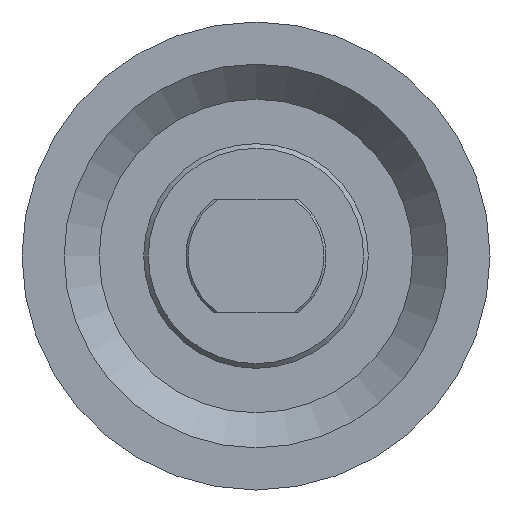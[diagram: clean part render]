
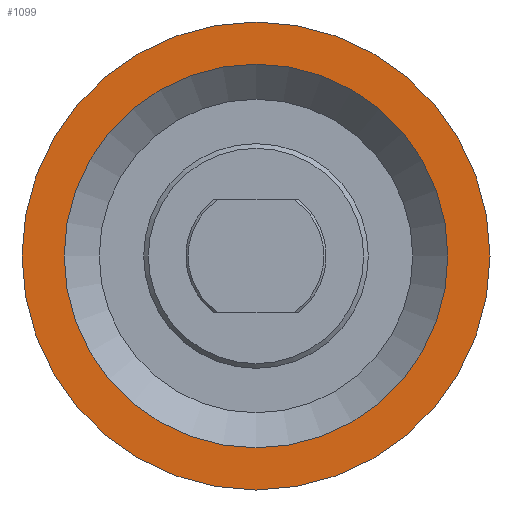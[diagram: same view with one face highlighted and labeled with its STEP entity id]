
A CAD part, left-side view. The second image highlights one B-rep face of the part: STEP entity #1099.
In plain terms, the highlighted planar face has unit normal (-1, 0, 0).
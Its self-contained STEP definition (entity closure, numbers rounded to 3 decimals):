
#90=FACE_BOUND('',#338,.T.);
#105=PLANE('',#1330);
#269=FACE_OUTER_BOUND('',#337,.T.);
#337=EDGE_LOOP('',(#853,#854));
#338=EDGE_LOOP('',(#855,#856));
#418=CIRCLE('',#1297,50.);
#419=CIRCLE('',#1298,50.);
#439=CIRCLE('',#1328,41.);
#440=CIRCLE('',#1329,41.);
#510=VERTEX_POINT('',#1886);
#511=VERTEX_POINT('',#1888);
#531=VERTEX_POINT('',#1945);
#532=VERTEX_POINT('',#1947);
#626=EDGE_CURVE('',#510,#511,#418,.T.);
#627=EDGE_CURVE('',#511,#510,#419,.T.);
#654=EDGE_CURVE('',#532,#531,#439,.T.);
#655=EDGE_CURVE('',#531,#532,#440,.T.);
#853=ORIENTED_EDGE('',*,*,#627,.F.);
#854=ORIENTED_EDGE('',*,*,#626,.F.);
#855=ORIENTED_EDGE('',*,*,#654,.T.);
#856=ORIENTED_EDGE('',*,*,#655,.T.);
#1099=ADVANCED_FACE('',(#269,#90),#105,.T.);
#1297=AXIS2_PLACEMENT_3D('',#1889,#1502,#1503);
#1298=AXIS2_PLACEMENT_3D('',#1890,#1504,#1505);
#1328=AXIS2_PLACEMENT_3D('',#1948,#1571,#1572);
#1329=AXIS2_PLACEMENT_3D('',#1949,#1573,#1574);
#1330=AXIS2_PLACEMENT_3D('',#1950,#1575,#1576);
#1502=DIRECTION('center_axis',(1.,0.,0.));
#1503=DIRECTION('ref_axis',(0.,0.,-1.));
#1504=DIRECTION('center_axis',(1.,0.,0.));
#1505=DIRECTION('ref_axis',(0.,0.,-1.));
#1571=DIRECTION('center_axis',(1.,0.,0.));
#1572=DIRECTION('ref_axis',(0.,0.,-1.));
#1573=DIRECTION('center_axis',(1.,0.,0.));
#1574=DIRECTION('ref_axis',(0.,0.,-1.));
#1575=DIRECTION('center_axis',(-1.,0.,0.));
#1576=DIRECTION('ref_axis',(0.,0.,1.));
#1886=CARTESIAN_POINT('',(-10.5,-50.,0.));
#1888=CARTESIAN_POINT('',(-10.5,50.,0.));
#1889=CARTESIAN_POINT('Origin',(-10.5,0.,0.));
#1890=CARTESIAN_POINT('Origin',(-10.5,0.,0.));
#1945=CARTESIAN_POINT('',(-10.5,-41.,0.));
#1947=CARTESIAN_POINT('',(-10.5,41.,0.));
#1948=CARTESIAN_POINT('Origin',(-10.5,0.,0.));
#1949=CARTESIAN_POINT('Origin',(-10.5,0.,0.));
#1950=CARTESIAN_POINT('Origin',(-10.5,50.,0.));
